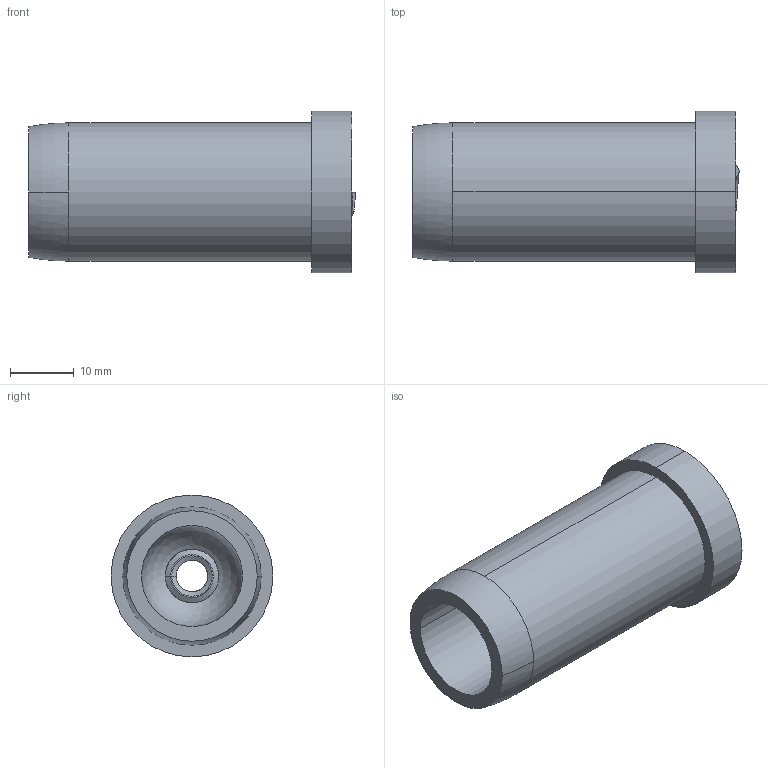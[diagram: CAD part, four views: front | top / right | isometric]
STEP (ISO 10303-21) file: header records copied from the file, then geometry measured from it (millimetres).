
FILE_DESCRIPTION (( 'STEP AP203' ), '1' );
FILE_NAME ('FDPCK-MC.875-S-ENDTHRD.step', '2019-09-11T18:38:23', ( 'ydmin' ), ( '' ), 'SwSTEP 2.0', 'SolidWorks 2017', '' );
FILE_SCHEMA (( 'CONFIG_CONTROL_DESIGN' ));
Length unit declared in the file: inch
Products named in the file (1): FDPCK-MC.875-S-ENDTHRD
Bounding box: 51.36 x 25.4 x 25.4 mm (x, y, z)
Volume: 11309.6 mm3; surface area: 7421.8 mm2
Topology: 2 solids, 2 shells, 24 faces, 56 edges, 37 vertices
Faces by surface type: cylinder 8, bspline 8, plane 5, torus 2, sphere 1
Entity records: 4169 total; most frequent: CARTESIAN_POINT 3579, ORIENTED_EDGE 108, DIRECTION 102, EDGE_CURVE 54, AXIS2_PLACEMENT_3D 39, VERTEX_POINT 36, EDGE_LOOP 28, FACE_OUTER_BOUND 24
